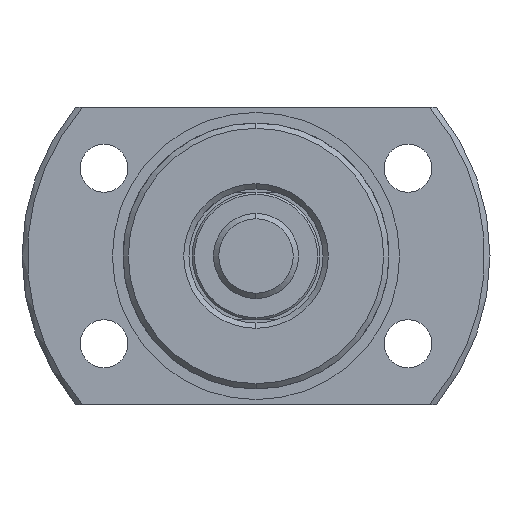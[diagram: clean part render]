
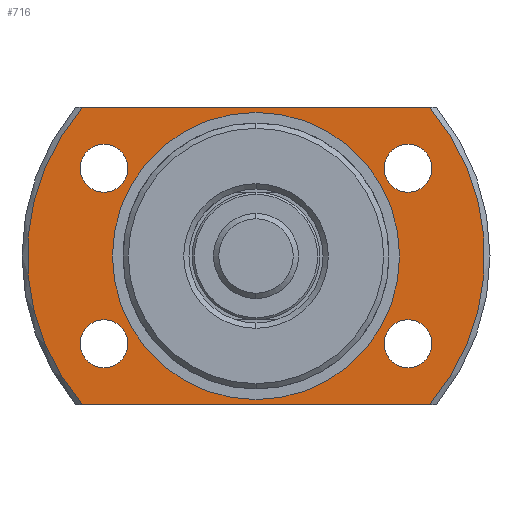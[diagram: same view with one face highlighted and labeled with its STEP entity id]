
A CAD part, left-side view. The second image highlights one B-rep face of the part: STEP entity #716.
In plain terms, the highlighted planar face has unit normal (-1, 0, 0).
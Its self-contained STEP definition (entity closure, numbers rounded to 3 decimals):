
#131 = DIRECTION ( 'NONE',  ( 0., 0., 1. ) ) ;
#132 = CARTESIAN_POINT ( 'NONE',  ( -5., -14.289, -8.25 ) ) ;
#134 = DIRECTION ( 'NONE',  ( 0., 0., 1. ) ) ;
#162 = DIRECTION ( 'NONE',  ( -1., 0., 0. ) ) ;
#174 = DIRECTION ( 'NONE',  ( -1., 0., 0. ) ) ;
#176 = CARTESIAN_POINT ( 'NONE',  ( -5., 14.289, -8.25 ) ) ;
#205 = EDGE_CURVE ( 'NONE', #2650, #2559, #2193, .T. ) ;
#212 = EDGE_CURVE ( 'NONE', #2706, #2558, #2182, .T. ) ;
#216 = EDGE_CURVE ( 'NONE', #2550, #2564, #2176, .T. ) ;
#220 = EDGE_CURVE ( 'NONE', #2697, #2562, #2170, .T. ) ;
#224 = EDGE_CURVE ( 'NONE', #2588, #2691, #2164, .T. ) ;
#445 = AXIS2_PLACEMENT_3D ( 'NONE', #1826, #1825, #1824 ) ;
#448 = AXIS2_PLACEMENT_3D ( 'NONE', #1800, #1798, #1796 ) ;
#450 = AXIS2_PLACEMENT_3D ( 'NONE', #1781, #1779, #1778 ) ;
#452 = AXIS2_PLACEMENT_3D ( 'NONE', #1768, #1767, #1766 ) ;
#454 = AXIS2_PLACEMENT_3D ( 'NONE', #1754, #1753, #1752 ) ;
#588 = AXIS2_PLACEMENT_3D ( 'NONE', #3099, #3104, #3098 ) ;
#716 = ADVANCED_FACE ( 'NONE', ( #1332, #1333, #1345, #1343, #1330, #1334 ), #3102, .T. ) ;
#821 = AXIS2_PLACEMENT_3D ( 'NONE', #1941, #1940, #1939 ) ;
#822 = AXIS2_PLACEMENT_3D ( 'NONE', #1934, #1933, #1932 ) ;
#823 = AXIS2_PLACEMENT_3D ( 'NONE', #1926, #1925, #1924 ) ;
#824 = AXIS2_PLACEMENT_3D ( 'NONE', #1921, #1920, #1919 ) ;
#825 = AXIS2_PLACEMENT_3D ( 'NONE', #1917, #1916, #1915 ) ;
#826 = AXIS2_PLACEMENT_3D ( 'NONE', #176, #174, #134 ) ;
#827 = AXIS2_PLACEMENT_3D ( 'NONE', #132, #162, #131 ) ;
#937 = CARTESIAN_POINT ( 'NONE',  ( -5., 0., 13.5 ) ) ;
#1084 = CARTESIAN_POINT ( 'NONE',  ( -5., 14.289, 6. ) ) ;
#1085 = CARTESIAN_POINT ( 'NONE',  ( -5., -14.289, -10.5 ) ) ;
#1123 = CARTESIAN_POINT ( 'NONE',  ( -5., -16.317, 14. ) ) ;
#1124 = CARTESIAN_POINT ( 'NONE',  ( -5., 16.317, 14. ) ) ;
#1126 = CARTESIAN_POINT ( 'NONE',  ( -5., 14.289, -6. ) ) ;
#1128 = CARTESIAN_POINT ( 'NONE',  ( -5., 0., -13.5 ) ) ;
#1131 = CARTESIAN_POINT ( 'NONE',  ( -5., -14.289, 10.5 ) ) ;
#1135 = CARTESIAN_POINT ( 'NONE',  ( -5., 16.317, -14. ) ) ;
#1136 = CARTESIAN_POINT ( 'NONE',  ( -5., -16.317, -14. ) ) ;
#1138 = CARTESIAN_POINT ( 'NONE',  ( -5., 14.289, 10.5 ) ) ;
#1330 = FACE_BOUND ( 'NONE', #3844, .T. ) ;
#1332 = FACE_BOUND ( 'NONE', #3847, .T. ) ;
#1333 = FACE_BOUND ( 'NONE', #3828, .T. ) ;
#1334 = FACE_BOUND ( 'NONE', #3850, .T. ) ;
#1343 = FACE_OUTER_BOUND ( 'NONE', #3838, .T. ) ;
#1345 = FACE_BOUND ( 'NONE', #3821, .T. ) ;
#1607 = CIRCLE ( 'NONE', #823, 13.5 ) ;
#1608 = CIRCLE ( 'NONE', #822, 21.5 ) ;
#1610 = LINE ( 'NONE', #1918, #1612 ) ;
#1611 = VECTOR ( 'NONE', #1922, 1000. ) ;
#1612 = VECTOR ( 'NONE', #1914, 1000. ) ;
#1614 = CIRCLE ( 'NONE', #821, 21.5 ) ;
#1626 = CIRCLE ( 'NONE', #824, 2.25 ) ;
#1641 = CIRCLE ( 'NONE', #825, 2.25 ) ;
#1642 = LINE ( 'NONE', #1923, #1611 ) ;
#1752 = DIRECTION ( 'NONE',  ( 0., 0., 1. ) ) ;
#1753 = DIRECTION ( 'NONE',  ( -1., 0., 0. ) ) ;
#1754 = CARTESIAN_POINT ( 'NONE',  ( -5., -14.289, -8.25 ) ) ;
#1766 = DIRECTION ( 'NONE',  ( 0., 0., 1. ) ) ;
#1767 = DIRECTION ( 'NONE',  ( -1., 0., 0. ) ) ;
#1768 = CARTESIAN_POINT ( 'NONE',  ( -5., -14.289, 8.25 ) ) ;
#1778 = DIRECTION ( 'NONE',  ( 0., 0., 1. ) ) ;
#1779 = DIRECTION ( 'NONE',  ( -1., 0., 0. ) ) ;
#1781 = CARTESIAN_POINT ( 'NONE',  ( -5., 14.289, 8.25 ) ) ;
#1796 = DIRECTION ( 'NONE',  ( 0., 0., 1. ) ) ;
#1798 = DIRECTION ( 'NONE',  ( -1., 0., 0. ) ) ;
#1800 = CARTESIAN_POINT ( 'NONE',  ( -5., 14.289, -8.25 ) ) ;
#1824 = DIRECTION ( 'NONE',  ( 0., 0., -1. ) ) ;
#1825 = DIRECTION ( 'NONE',  ( 1., 0., 0. ) ) ;
#1826 = CARTESIAN_POINT ( 'NONE',  ( -5., 0., 0. ) ) ;
#1895 = CARTESIAN_POINT ( 'NONE',  ( -5., 14.289, -10.5 ) ) ;
#1904 = CARTESIAN_POINT ( 'NONE',  ( -5., -14.289, 6. ) ) ;
#1912 = CARTESIAN_POINT ( 'NONE',  ( -5., -14.289, -6. ) ) ;
#1914 = DIRECTION ( 'NONE',  ( 0., -1., 0. ) ) ;
#1915 = DIRECTION ( 'NONE',  ( 0., 0., 1. ) ) ;
#1916 = DIRECTION ( 'NONE',  ( -1., 0., 0. ) ) ;
#1917 = CARTESIAN_POINT ( 'NONE',  ( -5., -14.289, 8.25 ) ) ;
#1918 = CARTESIAN_POINT ( 'NONE',  ( -5., 21.5, -14. ) ) ;
#1919 = DIRECTION ( 'NONE',  ( 0., 0., 1. ) ) ;
#1920 = DIRECTION ( 'NONE',  ( -1., 0., 0. ) ) ;
#1921 = CARTESIAN_POINT ( 'NONE',  ( -5., 14.289, 8.25 ) ) ;
#1922 = DIRECTION ( 'NONE',  ( 0., 1., 0. ) ) ;
#1923 = CARTESIAN_POINT ( 'NONE',  ( -5., 21.5, 14. ) ) ;
#1924 = DIRECTION ( 'NONE',  ( 0., 0., -1. ) ) ;
#1925 = DIRECTION ( 'NONE',  ( 1., 0., 0. ) ) ;
#1926 = CARTESIAN_POINT ( 'NONE',  ( -5., 0., 0. ) ) ;
#1932 = DIRECTION ( 'NONE',  ( 0., 0., -1. ) ) ;
#1933 = DIRECTION ( 'NONE',  ( 1., 0., 0. ) ) ;
#1934 = CARTESIAN_POINT ( 'NONE',  ( -5., 0., 0. ) ) ;
#1939 = DIRECTION ( 'NONE',  ( 0., 0., -1. ) ) ;
#1940 = DIRECTION ( 'NONE',  ( 1., 0., 0. ) ) ;
#1941 = CARTESIAN_POINT ( 'NONE',  ( -5., 0., 0. ) ) ;
#1983 = CIRCLE ( 'NONE', #826, 2.25 ) ;
#1984 = CIRCLE ( 'NONE', #827, 2.25 ) ;
#2164 = CIRCLE ( 'NONE', #454, 2.25 ) ;
#2170 = CIRCLE ( 'NONE', #452, 2.25 ) ;
#2176 = CIRCLE ( 'NONE', #450, 2.25 ) ;
#2182 = CIRCLE ( 'NONE', #448, 2.25 ) ;
#2193 = CIRCLE ( 'NONE', #445, 13.5 ) ;
#2477 = ORIENTED_EDGE ( 'NONE', *, *, #3771, .F. ) ;
#2478 = ORIENTED_EDGE ( 'NONE', *, *, #224, .F. ) ;
#2479 = ORIENTED_EDGE ( 'NONE', *, *, #3770, .F. ) ;
#2480 = ORIENTED_EDGE ( 'NONE', *, *, #212, .F. ) ;
#2481 = ORIENTED_EDGE ( 'NONE', *, *, #3760, .F. ) ;
#2482 = ORIENTED_EDGE ( 'NONE', *, *, #3769, .T. ) ;
#2483 = ORIENTED_EDGE ( 'NONE', *, *, #3762, .F. ) ;
#2484 = ORIENTED_EDGE ( 'NONE', *, *, #3768, .T. ) ;
#2485 = ORIENTED_EDGE ( 'NONE', *, *, #3767, .F. ) ;
#2486 = ORIENTED_EDGE ( 'NONE', *, *, #220, .F. ) ;
#2487 = ORIENTED_EDGE ( 'NONE', *, *, #3766, .F. ) ;
#2488 = ORIENTED_EDGE ( 'NONE', *, *, #216, .F. ) ;
#2489 = ORIENTED_EDGE ( 'NONE', *, *, #205, .T. ) ;
#2490 = ORIENTED_EDGE ( 'NONE', *, *, #3765, .T. ) ;
#2550 = VERTEX_POINT ( 'NONE', #1084 ) ;
#2558 = VERTEX_POINT ( 'NONE', #1126 ) ;
#2559 = VERTEX_POINT ( 'NONE', #1128 ) ;
#2562 = VERTEX_POINT ( 'NONE', #1131 ) ;
#2564 = VERTEX_POINT ( 'NONE', #1138 ) ;
#2588 = VERTEX_POINT ( 'NONE', #1085 ) ;
#2600 = VERTEX_POINT ( 'NONE', #1123 ) ;
#2602 = VERTEX_POINT ( 'NONE', #1124 ) ;
#2607 = VERTEX_POINT ( 'NONE', #1135 ) ;
#2609 = VERTEX_POINT ( 'NONE', #1136 ) ;
#2650 = VERTEX_POINT ( 'NONE', #937 ) ;
#2691 = VERTEX_POINT ( 'NONE', #1912 ) ;
#2697 = VERTEX_POINT ( 'NONE', #1904 ) ;
#2706 = VERTEX_POINT ( 'NONE', #1895 ) ;
#3098 = DIRECTION ( 'NONE',  ( 0., 0., 1. ) ) ;
#3099 = CARTESIAN_POINT ( 'NONE',  ( -5., 21.5, 0. ) ) ;
#3102 = PLANE ( 'NONE',  #588 ) ;
#3104 = DIRECTION ( 'NONE',  ( -1., 0., 0. ) ) ;
#3760 = EDGE_CURVE ( 'NONE', #2600, #2609, #1614, .T. ) ;
#3762 = EDGE_CURVE ( 'NONE', #2607, #2602, #1608, .T. ) ;
#3765 = EDGE_CURVE ( 'NONE', #2559, #2650, #1607, .T. ) ;
#3766 = EDGE_CURVE ( 'NONE', #2564, #2550, #1626, .T. ) ;
#3767 = EDGE_CURVE ( 'NONE', #2562, #2697, #1641, .T. ) ;
#3768 = EDGE_CURVE ( 'NONE', #2600, #2602, #1642, .T. ) ;
#3769 = EDGE_CURVE ( 'NONE', #2607, #2609, #1610, .T. ) ;
#3770 = EDGE_CURVE ( 'NONE', #2558, #2706, #1983, .T. ) ;
#3771 = EDGE_CURVE ( 'NONE', #2691, #2588, #1984, .T. ) ;
#3821 = EDGE_LOOP ( 'NONE', ( #2486, #2485 ) ) ;
#3828 = EDGE_LOOP ( 'NONE', ( #2488, #2487 ) ) ;
#3838 = EDGE_LOOP ( 'NONE', ( #2484, #2483, #2482, #2481 ) ) ;
#3844 = EDGE_LOOP ( 'NONE', ( #2480, #2479 ) ) ;
#3847 = EDGE_LOOP ( 'NONE', ( #2490, #2489 ) ) ;
#3850 = EDGE_LOOP ( 'NONE', ( #2478, #2477 ) ) ;
